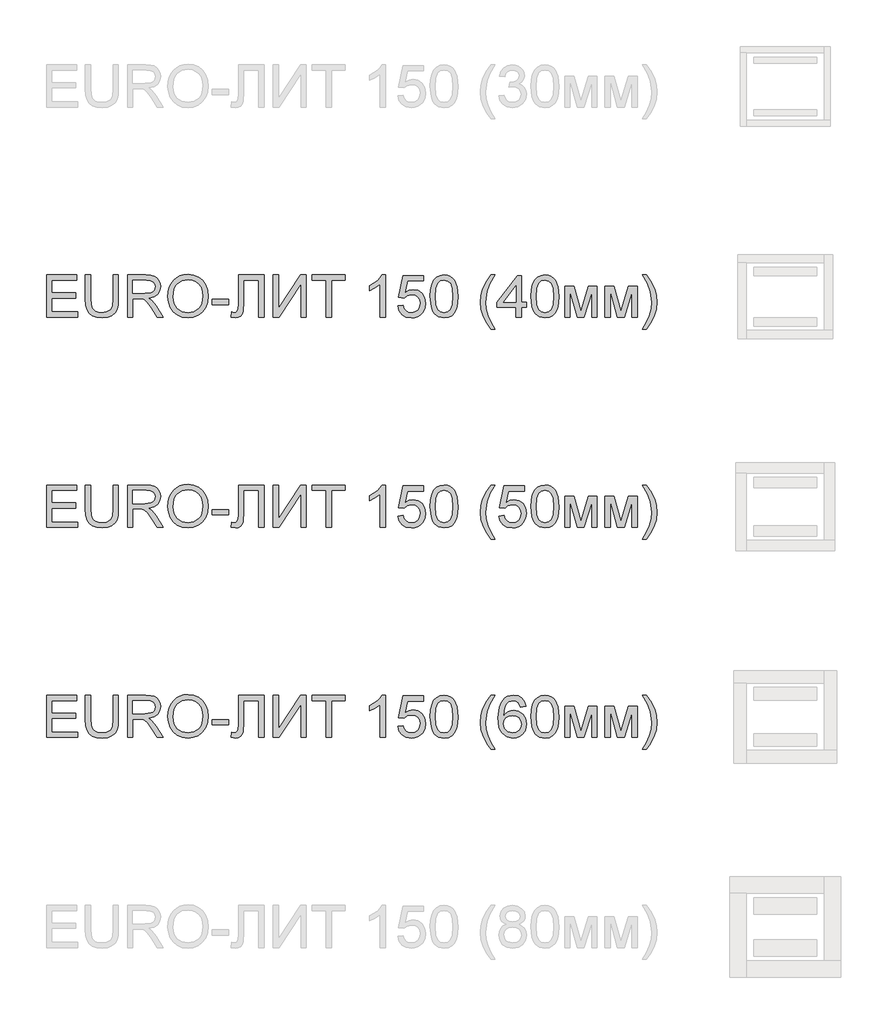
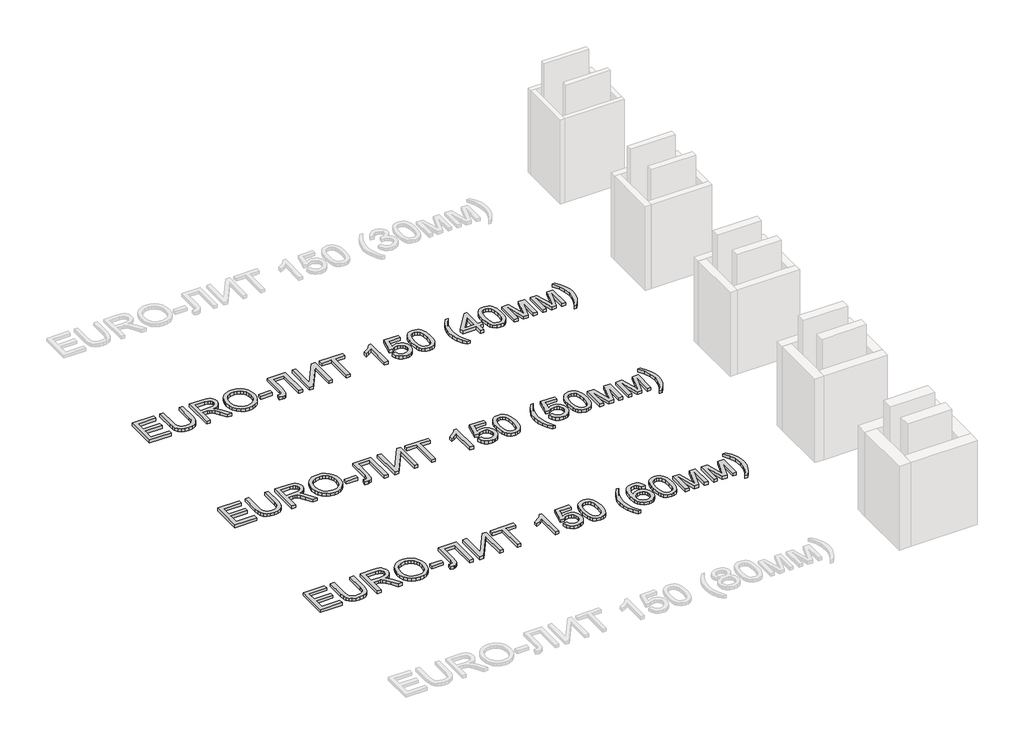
# One storey, part 16 of 35: 3 proxies.
"""IFC4 building model written with IfcOpenShell, lengths in millimetres."""

from ifc_helpers import new_model, si_unit, origin, origin_with_axes, place, context, project, spatial, polyline, outline, extrude, element, save

model = new_model("IFC4")

# Units and contexts
model_context = context("Model", 3, world=origin())
ifc_project = project(units=[si_unit("LENGTHUNIT", "METRE", prefix="MILLI")], contexts=[model_context])

# Site, building, storey
site = spatial("IfcSite", under=ifc_project)
building = spatial("IfcBuilding", under=site)
storey = spatial("IfcBuildingStorey", under=building, Name="Этаж 01", Elevation=0.0)

# Proxies
placement = place(None, origin())
element("IfcBuildingElementProxy", 1, Name="400 мм Arial", ObjectType="400 мм Arial", at=placement, inside=storey, context=model_context, shape_type="SweptSolid", body=[
    extrude(outline(polyline([(23432.9130067, -50230.4960856), (23432.9130067, -50029.5834653), (23577.3189525, -50029.5834653), (23577.3189525, -50054.6975429), (23458.0270842, -50054.6975429), (23458.0270842, -50114.343477), (23571.0404331, -50114.343477), (23571.0404331, -50139.4575546), (23458.0270842, -50139.4575546), (23458.0270842, -50205.3820081), (23580.4582122, -50205.3820081), (23580.4582122, -50230.4960856), (23432.9130067, -50230.4960856)])), origin_with_axes(), (0.0, 0.0, 1.0), 20.0),
    extrude(outline(polyline([(23749.9782356, -50029.5834653), (23775.0923131, -50029.5834653), (23775.0923131, -50145.4908193), (23773.3877932, -50172.6343792), (23768.2742335, -50193.5362079), (23758.7215643, -50209.661702), (23743.6997162, -50222.4762582), (23723.1719008, -50230.8455735), (23697.1013301, -50233.6353453), (23671.6009765, -50231.2073242), (23651.2141826, -50223.9232607), (23635.9348171, -50212.0345409), (23625.7567485, -50195.7925508), (23620.0361835, -50174.0078053), (23618.1293285, -50145.4908193), (23618.1293285, -50029.5834653), (23643.243406, -50029.5834653), (23643.243406, -50144.6079025), (23644.4819421, -50167.1774629), (23648.1975502, -50182.8921555), (23654.9297907, -50193.7753312), (23665.2182239, -50201.850341), (23678.633654, -50206.8535361), (23694.7468854, -50208.5212678), (23720.2901585, -50205.2225926), (23737.274044, -50195.3265669), (23746.8021877, -50176.0495504), (23749.9782356, -50144.6079025), (23749.9782356, -50029.5834653)])), origin_with_axes(), (0.0, 0.0, 1.0), 20.0),
    extrude(outline(polyline([(23819.0419488, -50230.4960856), (23819.0419488, -50029.5834653), (23905.616845, -50029.5834653), (23928.8853812, -50030.9384974), (23945.8140843, -50035.0035934), (23958.1871821, -50042.5083861), (23967.7889022, -50054.1825081), (23973.9509256, -50068.6586646), (23976.0049334, -50084.5695609), (23972.6020249, -50104.3616122), (23962.3932996, -50120.7691492), (23945.072189, -50132.7988905), (23920.3321248, -50139.4575546), (23934.6059462, -50150.1997088), (23954.9620833, -50176.0495504), (23988.4638703, -50230.4960856), (23959.2785653, -50230.4960856), (23933.1344182, -50188.8518438), (23914.2498091, -50161.2852196), (23900.9815318, -50148.262197), (23889.0376297, -50143.4797311), (23874.4695027, -50142.5968143), (23844.1560263, -50142.5968143), (23844.1560263, -50230.4960856), (23819.0419488, -50230.4960856)]), holes=[polyline([(23844.1560263, -50117.4827367), (23900.3683952, -50117.4827367), (23929.0386653, -50113.9265441), (23938.4687072, -50109.3034937), (23945.323575, -50102.5467277), (23950.8908559, -50085.5015286), (23948.2359741, -50073.2510582), (23940.2713289, -50063.379558), (23926.5677246, -50056.8680467), (23906.6959655, -50054.6975429), (23844.1560263, -50054.6975429), (23844.1560263, -50117.4827367)])]), origin_with_axes(), (0.0, 0.0, 1.0), 20.0),
    extrude(outline(polyline([(24010.53679, -50132.6885259), (24012.2106531, -50109.1226184), (24017.2322423, -50088.2606436), (24025.6015577, -50070.1026014), (24037.3185993, -50054.648492), (24051.6813255, -50042.3091167), (24067.9876949, -50033.4952772), (24086.2377076, -50028.2069736), (24106.4313634, -50026.4442057), (24132.783977, -50029.7551436), (24156.4142638, -50039.6879575), (24176.0346369, -50055.5436715), (24190.3575093, -50076.6233098), (24199.1131007, -50101.9090656), (24202.0316312, -50130.383132), (24198.9598166, -50159.2373432), (24189.7443726, -50184.8787182), (24174.8942027, -50205.9951448), (24154.9182104, -50221.2745103), (24131.4902587, -50230.5451366), (24106.2842106, -50233.6353453), (24079.5269268, -50230.2201742), (24055.76175, -50219.9746606), (24036.1904278, -50203.824641), (24022.0147083, -50182.6959517), (24013.4062696, -50158.3850832), (24010.53679, -50132.6885259)]), holes=[polyline([(24035.6508675, -50132.9337805), (24040.6724568, -50164.3631656), (24055.7372245, -50188.3122835), (24078.3803613, -50203.4690217), (24106.1370578, -50208.5212678), (24134.2984246, -50203.4199708), (24156.9783496, -50188.1160798), (24165.7017514, -50176.8435623), (24171.9327527, -50163.4311979), (24176.9175537, -50130.1869283), (24174.7838381, -50107.9545931), (24168.3826914, -50088.7388902), (24157.8796604, -50073.0241976), (24143.4402921, -50061.2948933), (24126.0210797, -50053.9924357), (24106.5785162, -50051.5582832), (24079.563715, -50056.2487786), (24056.5956158, -50070.3202649), (24047.4322884, -50081.2693528), (24040.8870546, -50095.3546347), (24035.6508675, -50132.9337805)])]), origin_with_axes(), (0.0, 0.0, 1.0), 20.0),
    extrude(outline(polyline([(24220.8671894, -50170.8501515), (24220.8671894, -50145.736074), (24299.3486817, -50145.736074), (24299.3486817, -50170.8501515), (24220.8671894, -50170.8501515)])), origin_with_axes(), (0.0, 0.0, 1.0), 20.0),
    extrude(outline(polyline([(24346.4375771, -50029.5834653), (24468.8687051, -50029.5834653), (24468.8687051, -50230.4960856), (24443.7546275, -50230.4960856), (24443.7546275, -50054.6975429), (24371.5516546, -50054.6975429), (24371.5516546, -50157.2139922), (24368.6331241, -50202.9539869), (24364.1143069, -50215.8789077), (24356.3949164, -50225.5664669), (24345.8244404, -50231.6181257), (24332.7523669, -50233.6353453), (24311.9057205, -50230.4960856), (24315.0449802, -50205.3820081), (24327.0624587, -50208.5212678), (24335.5544014, -50206.835142), (24341.6060602, -50201.7767646), (24345.2296979, -50190.4643932), (24346.4375771, -50170.0162856), (24346.4375771, -50029.5834653)])), origin_with_axes(), (0.0, 0.0, 1.0), 20.0),
    extrude(outline(polyline([(24512.8183408, -50029.5834653), (24537.9324183, -50029.5834653), (24537.9324183, -50188.704691), (24643.097618, -50029.5834653), (24669.7813254, -50029.5834653), (24669.7813254, -50230.4960856), (24644.6672478, -50230.4960856), (24644.6672478, -50071.8163184), (24539.7473028, -50230.4960856), (24512.8183408, -50230.4960856), (24512.8183408, -50029.5834653)])), origin_with_axes(), (0.0, 0.0, 1.0), 20.0),
    extrude(outline(polyline([(24763.9591161, -50230.4960856), (24763.9591161, -50054.6975429), (24698.0346626, -50054.6975429), (24698.0346626, -50029.5834653), (24854.9976472, -50029.5834653), (24854.9976472, -50054.6975429), (24789.0731937, -50054.6975429), (24789.0731937, -50230.4960856), (24763.9591161, -50230.4960856)])), origin_with_axes(), (0.0, 0.0, 1.0), 20.0),
    extrude(outline(polyline([(25046.4924884, -50230.4960856), (25021.3784109, -50230.4960856), (25021.3784109, -50073.9255085), (24997.5887085, -50090.8726057), (24971.1502558, -50103.5522718), (24971.1502558, -50079.8116204), (25007.9629808, -50056.3162237), (25021.4335932, -50042.741378), (25030.3056806, -50029.5834653), (25046.4924884, -50029.5834653), (25046.4924884, -50230.4960856)])), origin_with_axes(), (0.0, 0.0, 1.0), 20.0),
    extrude(outline(polyline([(25106.1384226, -50177.1286709), (25131.2525001, -50173.9894112), (25135.8632878, -50189.0664416), (25143.9076408, -50199.8637782), (25155.3487708, -50206.3568954), (25170.1498897, -50208.5212678), (25188.151582, -50205.5107668), (25201.6405885, -50196.4792638), (25210.0650862, -50182.4690912), (25212.8732521, -50164.5225812), (25210.2428958, -50147.6245349), (25202.3518271, -50134.6996141), (25189.1387321, -50126.4958456), (25170.5422972, -50123.7612561), (25148.493903, -50128.1267891), (25134.3917598, -50139.4575546), (25109.2776823, -50136.3182949), (25131.2525001, -50032.722725), (25228.5695506, -50032.722725), (25228.5695506, -50057.8368026), (25151.5595863, -50057.8368026), (25140.817432, -50113.1662547), (25158.7578106, -50102.2769476), (25177.5565806, -50098.6471786), (25201.0213205, -50103.1476017), (25220.5006721, -50116.6488709), (25233.6156653, -50137.2257371), (25237.9873297, -50162.9529513), (25234.0509923, -50188.0670289), (25222.2419803, -50209.5513374), (25211.8063943, -50220.0880909), (25199.6295003, -50227.6143434), (25185.7112981, -50232.1300948), (25170.0517879, -50233.6353453), (25145.3853001, -50229.766453), (25125.7342702, -50218.1597761), (25112.2636578, -50200.1642151), (25106.1384226, -50177.1286709)])), origin_with_axes(), (0.0, 0.0, 1.0), 20.0),
    extrude(outline(polyline([(25259.9621475, -50131.6584563), (25261.8076888, -50099.4994385), (25267.3443129, -50073.8519321), (25276.5168373, -50054.3235295), (25289.2700798, -50040.5218233), (25305.6960109, -50032.3180548), (25325.886601, -50029.5834653), (25341.3621703, -50031.2021461), (25355.2190588, -50036.0581885), (25366.8073416, -50043.96152), (25375.477094, -50054.7220684), (25387.2493178, -50084.4469336), (25391.8110546, -50131.6584563), (25389.9839073, -50163.633533), (25384.5024656, -50189.2197258), (25375.3851235, -50208.7665225), (25362.6502751, -50222.623411), (25346.1875558, -50230.8823617), (25325.886601, -50233.6353453), (25299.7915048, -50228.8528794), (25279.974928, -50214.5054816), (25271.2193365, -50199.3763345), (25264.9653426, -50180.525448), (25259.9621475, -50131.6584563)]), holes=[polyline([(25285.076225, -50131.6094053), (25288.019281, -50171.1138003), (25296.8484489, -50193.9776663), (25309.9940988, -50204.8853674), (25325.886601, -50208.5212678), (25341.7791032, -50204.8731047), (25354.9247532, -50193.9286153), (25363.7539211, -50171.0524866), (25366.696977, -50131.6094053), (25363.8520229, -50092.9940586), (25355.3171606, -50069.952383), (25342.1960362, -50058.5112529), (25325.5922954, -50054.6975429), (25309.8714715, -50058.0575318), (25297.2408563, -50068.1374984), (25288.1173829, -50092.6139139), (25285.076225, -50131.6094053)])]), origin_with_axes(), (0.0, 0.0, 1.0), 20.0),
    extrude(outline(polyline([(25548.7740392, -50287.0027601), (25529.3130816, -50259.6936533), (25513.1140111, -50228.0925899), (25502.1879159, -50193.7324116), (25498.5458841, -50158.1459599), (25501.2682109, -50126.937304), (25509.4351912, -50097.0775487), (25525.6465244, -50063.2569306), (25548.7740392, -50029.5834653), (25567.6095973, -50029.5834653), (25544.1142006, -50069.3637718), (25529.987532, -50107.9178049), (25523.6599616, -50158.2931127), (25526.4068139, -50190.4889187), (25534.6473706, -50222.6724619), (25548.3816317, -50254.8437424), (25567.6095973, -50287.0027601), (25548.7740392, -50287.0027601)])), origin_with_axes(), (0.0, 0.0, 1.0), 20.0),
    extrude(outline(polyline([(25668.0659075, -50230.4960856), (25668.0659075, -50183.4071903), (25577.0273764, -50183.4071903), (25577.0273764, -50158.2931127), (25674.3444269, -50032.722725), (25693.179985, -50032.722725), (25693.179985, -50158.2931127), (25718.2940626, -50158.2931127), (25718.2940626, -50183.4071903), (25693.179985, -50183.4071903), (25693.179985, -50230.4960856), (25668.0659075, -50230.4960856)]), holes=[polyline([(25668.0659075, -50158.2931127), (25668.0659075, -50080.6945372), (25607.929464, -50158.2931127), (25668.0659075, -50158.2931127)])]), origin_with_axes(), (0.0, 0.0, 1.0), 20.0),
    extrude(outline(polyline([(25740.2688804, -50131.6584563), (25742.1144217, -50099.4994385), (25747.6510458, -50073.8519321), (25756.8235702, -50054.3235295), (25769.5768127, -50040.5218233), (25786.0027438, -50032.3180548), (25806.1933339, -50029.5834653), (25821.6689032, -50031.2021461), (25835.5257917, -50036.0581885), (25847.1140745, -50043.96152), (25855.7838269, -50054.7220684), (25867.5560507, -50084.4469336), (25872.1177875, -50131.6584563), (25870.2906402, -50163.633533), (25864.8091985, -50189.2197258), (25855.6918564, -50208.7665225), (25842.957008, -50222.623411), (25826.4942887, -50230.8823617), (25806.1933339, -50233.6353453), (25780.0982377, -50228.8528794), (25760.2816609, -50214.5054816), (25751.5260695, -50199.3763345), (25745.2720755, -50180.525448), (25740.2688804, -50131.6584563)]), holes=[polyline([(25765.3829579, -50131.6094053), (25768.3260139, -50171.1138003), (25777.1551818, -50193.9776663), (25790.3008317, -50204.8853674), (25806.1933339, -50208.5212678), (25822.0858361, -50204.8731047), (25835.2314861, -50193.9286153), (25844.060654, -50171.0524866), (25847.0037099, -50131.6094053), (25844.1587558, -50092.9940586), (25835.6238935, -50069.952383), (25822.5027691, -50058.5112529), (25805.8990283, -50054.6975429), (25790.1782044, -50058.0575318), (25777.5475892, -50068.1374984), (25768.4241158, -50092.6139139), (25765.3829579, -50131.6094053)])]), origin_with_axes(), (0.0, 0.0, 1.0), 20.0),
    extrude(outline(polyline([(25900.3711247, -50082.9508801), (25943.5849964, -50082.9508801), (25976.8905797, -50201.065526), (26012.7958624, -50082.9508801), (26054.1948496, -50082.9508801), (26054.1948496, -50230.4960856), (26029.0807721, -50230.4960856), (26029.0807721, -50111.6947267), (25992.9792856, -50230.4960856), (25960.0170589, -50230.4960856), (25925.4852022, -50106.0048185), (25925.4852022, -50230.4960856), (25900.3711247, -50230.4960856), (25900.3711247, -50082.9508801)])), origin_with_axes(), (0.0, 0.0, 1.0), 20.0),
    extrude(outline(polyline([(26091.8659659, -50082.9508801), (26135.0798376, -50082.9508801), (26168.3854209, -50201.065526), (26204.2907036, -50082.9508801), (26245.6896908, -50082.9508801), (26245.6896908, -50230.4960856), (26220.5756133, -50230.4960856), (26220.5756133, -50111.6947267), (26184.4741268, -50230.4960856), (26151.5119001, -50230.4960856), (26116.9800435, -50106.0048185), (26116.9800435, -50230.4960856), (26091.8659659, -50230.4960856), (26091.8659659, -50082.9508801)])), origin_with_axes(), (0.0, 0.0, 1.0), 20.0),
    extrude(outline(polyline([(26289.6393265, -50287.0027601), (26270.8037684, -50287.0027601), (26290.031734, -50254.8437424), (26303.7659951, -50222.6724619), (26312.0065518, -50190.4889187), (26314.7534041, -50158.2931127), (26308.4258338, -50108.3592633), (26294.4463179, -50069.7561792), (26270.8037684, -50029.5834653), (26289.6393265, -50029.5834653), (26312.7668413, -50063.2569306), (26328.9781745, -50097.0775487), (26337.1451548, -50126.937304), (26339.8674816, -50158.1459599), (26336.2070558, -50193.7324116), (26325.2257782, -50228.0925899), (26309.0083136, -50259.6936533), (26289.6393265, -50287.0027601)])), origin_with_axes(), (0.0, 0.0, 1.0), 20.0),
])
element("IfcBuildingElementProxy", 2, Name="400 мм Arial", ObjectType="400 мм Arial", at=placement, inside=storey, context=model_context, shape_type="SweptSolid", body=[
    extrude(outline(polyline([(23432.9130067, -51230.4960856), (23432.9130067, -51029.5834653), (23577.3189525, -51029.5834653), (23577.3189525, -51054.6975429), (23458.0270842, -51054.6975429), (23458.0270842, -51114.343477), (23571.0404331, -51114.343477), (23571.0404331, -51139.4575546), (23458.0270842, -51139.4575546), (23458.0270842, -51205.3820081), (23580.4582122, -51205.3820081), (23580.4582122, -51230.4960856), (23432.9130067, -51230.4960856)])), origin_with_axes(), (0.0, 0.0, 1.0), 20.0),
    extrude(outline(polyline([(23749.9782356, -51029.5834653), (23775.0923131, -51029.5834653), (23775.0923131, -51145.4908193), (23773.3877932, -51172.6343792), (23768.2742335, -51193.5362079), (23758.7215643, -51209.661702), (23743.6997162, -51222.4762582), (23723.1719008, -51230.8455735), (23697.1013301, -51233.6353453), (23671.6009765, -51231.2073242), (23651.2141826, -51223.9232607), (23635.9348171, -51212.0345409), (23625.7567485, -51195.7925508), (23620.0361835, -51174.0078053), (23618.1293285, -51145.4908193), (23618.1293285, -51029.5834653), (23643.243406, -51029.5834653), (23643.243406, -51144.6079025), (23644.4819421, -51167.1774629), (23648.1975502, -51182.8921555), (23654.9297907, -51193.7753312), (23665.2182239, -51201.850341), (23678.633654, -51206.8535361), (23694.7468854, -51208.5212678), (23720.2901585, -51205.2225926), (23737.274044, -51195.3265669), (23746.8021877, -51176.0495504), (23749.9782356, -51144.6079025), (23749.9782356, -51029.5834653)])), origin_with_axes(), (0.0, 0.0, 1.0), 20.0),
    extrude(outline(polyline([(23819.0419488, -51230.4960856), (23819.0419488, -51029.5834653), (23905.616845, -51029.5834653), (23928.8853812, -51030.9384974), (23945.8140843, -51035.0035934), (23958.1871821, -51042.5083861), (23967.7889022, -51054.1825081), (23973.9509256, -51068.6586646), (23976.0049334, -51084.5695609), (23972.6020249, -51104.3616122), (23962.3932996, -51120.7691492), (23945.072189, -51132.7988905), (23920.3321248, -51139.4575546), (23934.6059462, -51150.1997088), (23954.9620833, -51176.0495504), (23988.4638703, -51230.4960856), (23959.2785653, -51230.4960856), (23933.1344182, -51188.8518438), (23914.2498091, -51161.2852196), (23900.9815318, -51148.262197), (23889.0376297, -51143.4797311), (23874.4695027, -51142.5968143), (23844.1560263, -51142.5968143), (23844.1560263, -51230.4960856), (23819.0419488, -51230.4960856)]), holes=[polyline([(23844.1560263, -51117.4827367), (23900.3683952, -51117.4827367), (23929.0386653, -51113.9265441), (23938.4687072, -51109.3034937), (23945.323575, -51102.5467277), (23950.8908559, -51085.5015286), (23948.2359741, -51073.2510582), (23940.2713289, -51063.379558), (23926.5677246, -51056.8680467), (23906.6959655, -51054.6975429), (23844.1560263, -51054.6975429), (23844.1560263, -51117.4827367)])]), origin_with_axes(), (0.0, 0.0, 1.0), 20.0),
    extrude(outline(polyline([(24010.53679, -51132.6885259), (24012.2106531, -51109.1226184), (24017.2322423, -51088.2606436), (24025.6015577, -51070.1026014), (24037.3185993, -51054.648492), (24051.6813255, -51042.3091167), (24067.9876949, -51033.4952772), (24086.2377076, -51028.2069736), (24106.4313634, -51026.4442057), (24132.783977, -51029.7551436), (24156.4142638, -51039.6879575), (24176.0346369, -51055.5436715), (24190.3575093, -51076.6233098), (24199.1131007, -51101.9090656), (24202.0316312, -51130.383132), (24198.9598166, -51159.2373432), (24189.7443726, -51184.8787182), (24174.8942027, -51205.9951448), (24154.9182104, -51221.2745103), (24131.4902587, -51230.5451366), (24106.2842106, -51233.6353453), (24079.5269268, -51230.2201742), (24055.76175, -51219.9746606), (24036.1904278, -51203.824641), (24022.0147083, -51182.6959517), (24013.4062696, -51158.3850832), (24010.53679, -51132.6885259)]), holes=[polyline([(24035.6508675, -51132.9337805), (24040.6724568, -51164.3631656), (24055.7372245, -51188.3122835), (24078.3803613, -51203.4690217), (24106.1370578, -51208.5212678), (24134.2984246, -51203.4199708), (24156.9783496, -51188.1160798), (24165.7017514, -51176.8435623), (24171.9327527, -51163.4311979), (24176.9175537, -51130.1869283), (24174.7838381, -51107.9545931), (24168.3826914, -51088.7388902), (24157.8796604, -51073.0241976), (24143.4402921, -51061.2948933), (24126.0210797, -51053.9924357), (24106.5785162, -51051.5582832), (24079.563715, -51056.2487786), (24056.5956158, -51070.3202649), (24047.4322884, -51081.2693528), (24040.8870546, -51095.3546347), (24035.6508675, -51132.9337805)])]), origin_with_axes(), (0.0, 0.0, 1.0), 20.0),
    extrude(outline(polyline([(24220.8671894, -51170.8501515), (24220.8671894, -51145.736074), (24299.3486817, -51145.736074), (24299.3486817, -51170.8501515), (24220.8671894, -51170.8501515)])), origin_with_axes(), (0.0, 0.0, 1.0), 20.0),
    extrude(outline(polyline([(24346.4375771, -51029.5834653), (24468.8687051, -51029.5834653), (24468.8687051, -51230.4960856), (24443.7546275, -51230.4960856), (24443.7546275, -51054.6975429), (24371.5516546, -51054.6975429), (24371.5516546, -51157.2139922), (24368.6331241, -51202.9539869), (24364.1143069, -51215.8789077), (24356.3949164, -51225.5664669), (24345.8244404, -51231.6181257), (24332.7523669, -51233.6353453), (24311.9057205, -51230.4960856), (24315.0449802, -51205.3820081), (24327.0624587, -51208.5212678), (24335.5544014, -51206.835142), (24341.6060602, -51201.7767646), (24345.2296979, -51190.4643932), (24346.4375771, -51170.0162856), (24346.4375771, -51029.5834653)])), origin_with_axes(), (0.0, 0.0, 1.0), 20.0),
    extrude(outline(polyline([(24512.8183408, -51029.5834653), (24537.9324183, -51029.5834653), (24537.9324183, -51188.704691), (24643.097618, -51029.5834653), (24669.7813254, -51029.5834653), (24669.7813254, -51230.4960856), (24644.6672478, -51230.4960856), (24644.6672478, -51071.8163184), (24539.7473028, -51230.4960856), (24512.8183408, -51230.4960856), (24512.8183408, -51029.5834653)])), origin_with_axes(), (0.0, 0.0, 1.0), 20.0),
    extrude(outline(polyline([(24763.9591161, -51230.4960856), (24763.9591161, -51054.6975429), (24698.0346626, -51054.6975429), (24698.0346626, -51029.5834653), (24854.9976472, -51029.5834653), (24854.9976472, -51054.6975429), (24789.0731937, -51054.6975429), (24789.0731937, -51230.4960856), (24763.9591161, -51230.4960856)])), origin_with_axes(), (0.0, 0.0, 1.0), 20.0),
    extrude(outline(polyline([(25046.4924884, -51230.4960856), (25021.3784109, -51230.4960856), (25021.3784109, -51073.9255085), (24997.5887085, -51090.8726057), (24971.1502558, -51103.5522718), (24971.1502558, -51079.8116204), (25007.9629808, -51056.3162237), (25021.4335932, -51042.741378), (25030.3056806, -51029.5834653), (25046.4924884, -51029.5834653), (25046.4924884, -51230.4960856)])), origin_with_axes(), (0.0, 0.0, 1.0), 20.0),
    extrude(outline(polyline([(25106.1384226, -51177.1286709), (25131.2525001, -51173.9894112), (25135.8632878, -51189.0664416), (25143.9076408, -51199.8637782), (25155.3487708, -51206.3568954), (25170.1498897, -51208.5212678), (25188.151582, -51205.5107668), (25201.6405885, -51196.4792638), (25210.0650862, -51182.4690912), (25212.8732521, -51164.5225812), (25210.2428958, -51147.6245349), (25202.3518271, -51134.6996141), (25189.1387321, -51126.4958456), (25170.5422972, -51123.7612561), (25148.493903, -51128.1267891), (25134.3917598, -51139.4575546), (25109.2776823, -51136.3182949), (25131.2525001, -51032.722725), (25228.5695506, -51032.722725), (25228.5695506, -51057.8368026), (25151.5595863, -51057.8368026), (25140.817432, -51113.1662547), (25158.7578106, -51102.2769476), (25177.5565806, -51098.6471786), (25201.0213205, -51103.1476017), (25220.5006721, -51116.6488709), (25233.6156653, -51137.2257371), (25237.9873297, -51162.9529513), (25234.0509923, -51188.0670289), (25222.2419803, -51209.5513374), (25211.8063943, -51220.0880909), (25199.6295003, -51227.6143434), (25185.7112981, -51232.1300948), (25170.0517879, -51233.6353453), (25145.3853001, -51229.766453), (25125.7342702, -51218.1597761), (25112.2636578, -51200.1642151), (25106.1384226, -51177.1286709)])), origin_with_axes(), (0.0, 0.0, 1.0), 20.0),
    extrude(outline(polyline([(25259.9621475, -51131.6584563), (25261.8076888, -51099.4994385), (25267.3443129, -51073.8519321), (25276.5168373, -51054.3235295), (25289.2700798, -51040.5218233), (25305.6960109, -51032.3180548), (25325.886601, -51029.5834653), (25341.3621703, -51031.2021461), (25355.2190588, -51036.0581885), (25366.8073416, -51043.96152), (25375.477094, -51054.7220684), (25387.2493178, -51084.4469336), (25391.8110546, -51131.6584563), (25389.9839073, -51163.633533), (25384.5024656, -51189.2197258), (25375.3851235, -51208.7665225), (25362.6502751, -51222.623411), (25346.1875558, -51230.8823617), (25325.886601, -51233.6353453), (25299.7915048, -51228.8528794), (25279.974928, -51214.5054816), (25271.2193365, -51199.3763345), (25264.9653426, -51180.525448), (25259.9621475, -51131.6584563)]), holes=[polyline([(25285.076225, -51131.6094053), (25288.019281, -51171.1138003), (25296.8484489, -51193.9776663), (25309.9940988, -51204.8853674), (25325.886601, -51208.5212678), (25341.7791032, -51204.8731047), (25354.9247532, -51193.9286153), (25363.7539211, -51171.0524866), (25366.696977, -51131.6094053), (25363.8520229, -51092.9940586), (25355.3171606, -51069.952383), (25342.1960362, -51058.5112529), (25325.5922954, -51054.6975429), (25309.8714715, -51058.0575318), (25297.2408563, -51068.1374984), (25288.1173829, -51092.6139139), (25285.076225, -51131.6094053)])]), origin_with_axes(), (0.0, 0.0, 1.0), 20.0),
    extrude(outline(polyline([(25548.7740392, -51287.0027601), (25529.3130816, -51259.6936533), (25513.1140111, -51228.0925899), (25502.1879159, -51193.7324116), (25498.5458841, -51158.1459599), (25501.2682109, -51126.937304), (25509.4351912, -51097.0775487), (25525.6465244, -51063.2569306), (25548.7740392, -51029.5834653), (25567.6095973, -51029.5834653), (25544.1142006, -51069.3637718), (25529.987532, -51107.9178049), (25523.6599616, -51158.2931127), (25526.4068139, -51190.4889187), (25534.6473706, -51222.6724619), (25548.3816317, -51254.8437424), (25567.6095973, -51287.0027601), (25548.7740392, -51287.0027601)])), origin_with_axes(), (0.0, 0.0, 1.0), 20.0),
    extrude(outline(polyline([(25586.4451555, -51177.1286709), (25611.559233, -51173.9894112), (25616.1700207, -51189.0664416), (25624.2143737, -51199.8637782), (25635.6555037, -51206.3568954), (25650.4566226, -51208.5212678), (25668.4583149, -51205.5107668), (25681.9473214, -51196.4792638), (25690.3718191, -51182.4690912), (25693.179985, -51164.5225812), (25690.5496288, -51147.6245349), (25682.65856, -51134.6996141), (25669.445465, -51126.4958456), (25650.8490301, -51123.7612561), (25628.8006359, -51128.1267891), (25614.6984927, -51139.4575546), (25589.5844152, -51136.3182949), (25611.559233, -51032.722725), (25708.8762835, -51032.722725), (25708.8762835, -51057.8368026), (25631.8663192, -51057.8368026), (25621.1241649, -51113.1662547), (25639.0645435, -51102.2769476), (25657.8633135, -51098.6471786), (25681.3280534, -51103.1476017), (25700.807405, -51116.6488709), (25713.9223982, -51137.2257371), (25718.2940626, -51162.9529513), (25714.3577252, -51188.0670289), (25702.5487132, -51209.5513374), (25692.1131272, -51220.0880909), (25679.9362332, -51227.6143434), (25666.018031, -51232.1300948), (25650.3585208, -51233.6353453), (25625.692033, -51229.766453), (25606.0410031, -51218.1597761), (25592.5703907, -51200.1642151), (25586.4451555, -51177.1286709)])), origin_with_axes(), (0.0, 0.0, 1.0), 20.0),
    extrude(outline(polyline([(25740.2688804, -51131.6584563), (25742.1144217, -51099.4994385), (25747.6510458, -51073.8519321), (25756.8235702, -51054.3235295), (25769.5768127, -51040.5218233), (25786.0027438, -51032.3180548), (25806.1933339, -51029.5834653), (25821.6689032, -51031.2021461), (25835.5257917, -51036.0581885), (25847.1140745, -51043.96152), (25855.7838269, -51054.7220684), (25867.5560507, -51084.4469336), (25872.1177875, -51131.6584563), (25870.2906402, -51163.633533), (25864.8091985, -51189.2197258), (25855.6918564, -51208.7665225), (25842.957008, -51222.623411), (25826.4942887, -51230.8823617), (25806.1933339, -51233.6353453), (25780.0982377, -51228.8528794), (25760.2816609, -51214.5054816), (25751.5260695, -51199.3763345), (25745.2720755, -51180.525448), (25740.2688804, -51131.6584563)]), holes=[polyline([(25765.3829579, -51131.6094053), (25768.3260139, -51171.1138003), (25777.1551818, -51193.9776663), (25790.3008317, -51204.8853674), (25806.1933339, -51208.5212678), (25822.0858361, -51204.8731047), (25835.2314861, -51193.9286153), (25844.060654, -51171.0524866), (25847.0037099, -51131.6094053), (25844.1587558, -51092.9940586), (25835.6238935, -51069.952383), (25822.5027691, -51058.5112529), (25805.8990283, -51054.6975429), (25790.1782044, -51058.0575318), (25777.5475892, -51068.1374984), (25768.4241158, -51092.6139139), (25765.3829579, -51131.6094053)])]), origin_with_axes(), (0.0, 0.0, 1.0), 20.0),
    extrude(outline(polyline([(25900.3711247, -51082.9508801), (25943.5849964, -51082.9508801), (25976.8905797, -51201.065526), (26012.7958624, -51082.9508801), (26054.1948496, -51082.9508801), (26054.1948496, -51230.4960856), (26029.0807721, -51230.4960856), (26029.0807721, -51111.6947267), (25992.9792856, -51230.4960856), (25960.0170589, -51230.4960856), (25925.4852022, -51106.0048185), (25925.4852022, -51230.4960856), (25900.3711247, -51230.4960856), (25900.3711247, -51082.9508801)])), origin_with_axes(), (0.0, 0.0, 1.0), 20.0),
    extrude(outline(polyline([(26091.8659659, -51082.9508801), (26135.0798376, -51082.9508801), (26168.3854209, -51201.065526), (26204.2907036, -51082.9508801), (26245.6896908, -51082.9508801), (26245.6896908, -51230.4960856), (26220.5756133, -51230.4960856), (26220.5756133, -51111.6947267), (26184.4741268, -51230.4960856), (26151.5119001, -51230.4960856), (26116.9800435, -51106.0048185), (26116.9800435, -51230.4960856), (26091.8659659, -51230.4960856), (26091.8659659, -51082.9508801)])), origin_with_axes(), (0.0, 0.0, 1.0), 20.0),
    extrude(outline(polyline([(26289.6393265, -51287.0027601), (26270.8037684, -51287.0027601), (26290.031734, -51254.8437424), (26303.7659951, -51222.6724619), (26312.0065518, -51190.4889187), (26314.7534041, -51158.2931127), (26308.4258338, -51108.3592633), (26294.4463179, -51069.7561792), (26270.8037684, -51029.5834653), (26289.6393265, -51029.5834653), (26312.7668413, -51063.2569306), (26328.9781745, -51097.0775487), (26337.1451548, -51126.937304), (26339.8674816, -51158.1459599), (26336.2070558, -51193.7324116), (26325.2257782, -51228.0925899), (26309.0083136, -51259.6936533), (26289.6393265, -51287.0027601)])), origin_with_axes(), (0.0, 0.0, 1.0), 20.0),
])
element("IfcBuildingElementProxy", 3, Name="400 мм Arial", ObjectType="400 мм Arial", at=placement, inside=storey, context=model_context, shape_type="SweptSolid", body=[
    extrude(outline(polyline([(23432.9130067, -52230.4960856), (23432.9130067, -52029.5834653), (23577.3189525, -52029.5834653), (23577.3189525, -52054.6975429), (23458.0270842, -52054.6975429), (23458.0270842, -52114.343477), (23571.0404331, -52114.343477), (23571.0404331, -52139.4575546), (23458.0270842, -52139.4575546), (23458.0270842, -52205.3820081), (23580.4582122, -52205.3820081), (23580.4582122, -52230.4960856), (23432.9130067, -52230.4960856)])), origin_with_axes(), (0.0, 0.0, 1.0), 20.0),
    extrude(outline(polyline([(23749.9782356, -52029.5834653), (23775.0923131, -52029.5834653), (23775.0923131, -52145.4908193), (23773.3877932, -52172.6343792), (23768.2742335, -52193.5362079), (23758.7215643, -52209.661702), (23743.6997162, -52222.4762582), (23723.1719008, -52230.8455735), (23697.1013301, -52233.6353453), (23671.6009765, -52231.2073242), (23651.2141826, -52223.9232607), (23635.9348171, -52212.0345409), (23625.7567485, -52195.7925508), (23620.0361835, -52174.0078053), (23618.1293285, -52145.4908193), (23618.1293285, -52029.5834653), (23643.243406, -52029.5834653), (23643.243406, -52144.6079025), (23644.4819421, -52167.1774629), (23648.1975502, -52182.8921555), (23654.9297907, -52193.7753312), (23665.2182239, -52201.850341), (23678.633654, -52206.8535361), (23694.7468854, -52208.5212678), (23720.2901585, -52205.2225926), (23737.274044, -52195.3265669), (23746.8021877, -52176.0495504), (23749.9782356, -52144.6079025), (23749.9782356, -52029.5834653)])), origin_with_axes(), (0.0, 0.0, 1.0), 20.0),
    extrude(outline(polyline([(23819.0419488, -52230.4960856), (23819.0419488, -52029.5834653), (23905.616845, -52029.5834653), (23928.8853812, -52030.9384974), (23945.8140843, -52035.0035934), (23958.1871821, -52042.5083861), (23967.7889022, -52054.1825081), (23973.9509256, -52068.6586646), (23976.0049334, -52084.5695609), (23972.6020249, -52104.3616122), (23962.3932996, -52120.7691492), (23945.072189, -52132.7988905), (23920.3321248, -52139.4575546), (23934.6059462, -52150.1997088), (23954.9620833, -52176.0495504), (23988.4638703, -52230.4960856), (23959.2785653, -52230.4960856), (23933.1344182, -52188.8518438), (23914.2498091, -52161.2852196), (23900.9815318, -52148.262197), (23889.0376297, -52143.4797311), (23874.4695027, -52142.5968143), (23844.1560263, -52142.5968143), (23844.1560263, -52230.4960856), (23819.0419488, -52230.4960856)]), holes=[polyline([(23844.1560263, -52117.4827367), (23900.3683952, -52117.4827367), (23929.0386653, -52113.9265441), (23938.4687072, -52109.3034937), (23945.323575, -52102.5467277), (23950.8908559, -52085.5015286), (23948.2359741, -52073.2510582), (23940.2713289, -52063.379558), (23926.5677246, -52056.8680467), (23906.6959655, -52054.6975429), (23844.1560263, -52054.6975429), (23844.1560263, -52117.4827367)])]), origin_with_axes(), (0.0, 0.0, 1.0), 20.0),
    extrude(outline(polyline([(24010.53679, -52132.6885259), (24012.2106531, -52109.1226184), (24017.2322423, -52088.2606436), (24025.6015577, -52070.1026014), (24037.3185993, -52054.648492), (24051.6813255, -52042.3091167), (24067.9876949, -52033.4952772), (24086.2377076, -52028.2069736), (24106.4313634, -52026.4442057), (24132.783977, -52029.7551436), (24156.4142638, -52039.6879575), (24176.0346369, -52055.5436715), (24190.3575093, -52076.6233098), (24199.1131007, -52101.9090656), (24202.0316312, -52130.383132), (24198.9598166, -52159.2373432), (24189.7443726, -52184.8787182), (24174.8942027, -52205.9951448), (24154.9182104, -52221.2745103), (24131.4902587, -52230.5451366), (24106.2842106, -52233.6353453), (24079.5269268, -52230.2201742), (24055.76175, -52219.9746606), (24036.1904278, -52203.824641), (24022.0147083, -52182.6959517), (24013.4062696, -52158.3850832), (24010.53679, -52132.6885259)]), holes=[polyline([(24035.6508675, -52132.9337805), (24040.6724568, -52164.3631656), (24055.7372245, -52188.3122835), (24078.3803613, -52203.4690217), (24106.1370578, -52208.5212678), (24134.2984246, -52203.4199708), (24156.9783496, -52188.1160798), (24165.7017514, -52176.8435623), (24171.9327527, -52163.4311979), (24176.9175537, -52130.1869283), (24174.7838381, -52107.9545931), (24168.3826914, -52088.7388902), (24157.8796604, -52073.0241976), (24143.4402921, -52061.2948933), (24126.0210797, -52053.9924357), (24106.5785162, -52051.5582832), (24079.563715, -52056.2487786), (24056.5956158, -52070.3202649), (24047.4322884, -52081.2693528), (24040.8870546, -52095.3546347), (24035.6508675, -52132.9337805)])]), origin_with_axes(), (0.0, 0.0, 1.0), 20.0),
    extrude(outline(polyline([(24220.8671894, -52170.8501515), (24220.8671894, -52145.736074), (24299.3486817, -52145.736074), (24299.3486817, -52170.8501515), (24220.8671894, -52170.8501515)])), origin_with_axes(), (0.0, 0.0, 1.0), 20.0),
    extrude(outline(polyline([(24346.4375771, -52029.5834653), (24468.8687051, -52029.5834653), (24468.8687051, -52230.4960856), (24443.7546275, -52230.4960856), (24443.7546275, -52054.6975429), (24371.5516546, -52054.6975429), (24371.5516546, -52157.2139922), (24368.6331241, -52202.9539869), (24364.1143069, -52215.8789077), (24356.3949164, -52225.5664669), (24345.8244404, -52231.6181257), (24332.7523669, -52233.6353453), (24311.9057205, -52230.4960856), (24315.0449802, -52205.3820081), (24327.0624587, -52208.5212678), (24335.5544014, -52206.835142), (24341.6060602, -52201.7767646), (24345.2296979, -52190.4643932), (24346.4375771, -52170.0162856), (24346.4375771, -52029.5834653)])), origin_with_axes(), (0.0, 0.0, 1.0), 20.0),
    extrude(outline(polyline([(24512.8183408, -52029.5834653), (24537.9324183, -52029.5834653), (24537.9324183, -52188.704691), (24643.097618, -52029.5834653), (24669.7813254, -52029.5834653), (24669.7813254, -52230.4960856), (24644.6672478, -52230.4960856), (24644.6672478, -52071.8163184), (24539.7473028, -52230.4960856), (24512.8183408, -52230.4960856), (24512.8183408, -52029.5834653)])), origin_with_axes(), (0.0, 0.0, 1.0), 20.0),
    extrude(outline(polyline([(24763.9591161, -52230.4960856), (24763.9591161, -52054.6975429), (24698.0346626, -52054.6975429), (24698.0346626, -52029.5834653), (24854.9976472, -52029.5834653), (24854.9976472, -52054.6975429), (24789.0731937, -52054.6975429), (24789.0731937, -52230.4960856), (24763.9591161, -52230.4960856)])), origin_with_axes(), (0.0, 0.0, 1.0), 20.0),
    extrude(outline(polyline([(25046.4924884, -52230.4960856), (25021.3784109, -52230.4960856), (25021.3784109, -52073.9255085), (24997.5887085, -52090.8726057), (24971.1502558, -52103.5522718), (24971.1502558, -52079.8116204), (25007.9629808, -52056.3162237), (25021.4335932, -52042.741378), (25030.3056806, -52029.5834653), (25046.4924884, -52029.5834653), (25046.4924884, -52230.4960856)])), origin_with_axes(), (0.0, 0.0, 1.0), 20.0),
    extrude(outline(polyline([(25106.1384226, -52177.1286709), (25131.2525001, -52173.9894112), (25135.8632878, -52189.0664416), (25143.9076408, -52199.8637782), (25155.3487708, -52206.3568954), (25170.1498897, -52208.5212678), (25188.151582, -52205.5107668), (25201.6405885, -52196.4792638), (25210.0650862, -52182.4690912), (25212.8732521, -52164.5225812), (25210.2428958, -52147.6245349), (25202.3518271, -52134.6996141), (25189.1387321, -52126.4958456), (25170.5422972, -52123.7612561), (25148.493903, -52128.1267891), (25134.3917598, -52139.4575546), (25109.2776823, -52136.3182949), (25131.2525001, -52032.722725), (25228.5695506, -52032.722725), (25228.5695506, -52057.8368026), (25151.5595863, -52057.8368026), (25140.817432, -52113.1662547), (25158.7578106, -52102.2769476), (25177.5565806, -52098.6471786), (25201.0213205, -52103.1476017), (25220.5006721, -52116.6488709), (25233.6156653, -52137.2257371), (25237.9873297, -52162.9529513), (25234.0509923, -52188.0670289), (25222.2419803, -52209.5513374), (25211.8063943, -52220.0880909), (25199.6295003, -52227.6143434), (25185.7112981, -52232.1300948), (25170.0517879, -52233.6353453), (25145.3853001, -52229.766453), (25125.7342702, -52218.1597761), (25112.2636578, -52200.1642151), (25106.1384226, -52177.1286709)])), origin_with_axes(), (0.0, 0.0, 1.0), 20.0),
    extrude(outline(polyline([(25259.9621475, -52131.6584563), (25261.8076888, -52099.4994385), (25267.3443129, -52073.8519321), (25276.5168373, -52054.3235295), (25289.2700798, -52040.5218233), (25305.6960109, -52032.3180548), (25325.886601, -52029.5834653), (25341.3621703, -52031.2021461), (25355.2190588, -52036.0581885), (25366.8073416, -52043.96152), (25375.477094, -52054.7220684), (25387.2493178, -52084.4469336), (25391.8110546, -52131.6584563), (25389.9839073, -52163.633533), (25384.5024656, -52189.2197258), (25375.3851235, -52208.7665225), (25362.6502751, -52222.623411), (25346.1875558, -52230.8823617), (25325.886601, -52233.6353453), (25299.7915048, -52228.8528794), (25279.974928, -52214.5054816), (25271.2193365, -52199.3763345), (25264.9653426, -52180.525448), (25259.9621475, -52131.6584563)]), holes=[polyline([(25285.076225, -52131.6094053), (25288.019281, -52171.1138003), (25296.8484489, -52193.9776663), (25309.9940988, -52204.8853674), (25325.886601, -52208.5212678), (25341.7791032, -52204.8731047), (25354.9247532, -52193.9286153), (25363.7539211, -52171.0524866), (25366.696977, -52131.6094053), (25363.8520229, -52092.9940586), (25355.3171606, -52069.952383), (25342.1960362, -52058.5112529), (25325.5922954, -52054.6975429), (25309.8714715, -52058.0575318), (25297.2408563, -52068.1374984), (25288.1173829, -52092.6139139), (25285.076225, -52131.6094053)])]), origin_with_axes(), (0.0, 0.0, 1.0), 20.0),
    extrude(outline(polyline([(25548.7740392, -52287.0027601), (25529.3130816, -52259.6936533), (25513.1140111, -52228.0925899), (25502.1879159, -52193.7324116), (25498.5458841, -52158.1459599), (25501.2682109, -52126.937304), (25509.4351912, -52097.0775487), (25525.6465244, -52063.2569306), (25548.7740392, -52029.5834653), (25567.6095973, -52029.5834653), (25544.1142006, -52069.3637718), (25529.987532, -52107.9178049), (25523.6599616, -52158.2931127), (25526.4068139, -52190.4889187), (25534.6473706, -52222.6724619), (25548.3816317, -52254.8437424), (25567.6095973, -52287.0027601), (25548.7740392, -52287.0027601)])), origin_with_axes(), (0.0, 0.0, 1.0), 20.0),
    extrude(outline(polyline([(25715.1548029, -52082.9508801), (25690.0407253, -52086.0901398), (25680.5248444, -52065.1453916), (25669.1327653, -52057.3095051), (25655.3617159, -52054.6975429), (25632.700185, -52060.7798585), (25623.2640118, -52070.38771), (25615.556884, -52083.6130677), (25610.3513538, -52102.3198672), (25608.4199733, -52128.3720438), (25618.4938086, -52116.618214), (25630.5664694, -52108.3347378), (25643.9635054, -52103.4235131), (25658.0104663, -52101.7864383), (25681.2115574, -52106.2623359), (25700.6847777, -52119.6900287), (25713.8917413, -52140.2055813), (25718.2940626, -52165.9450582), (25716.2216606, -52183.9283564), (25710.0044549, -52200.5995422), (25700.1574802, -52214.7384735), (25687.1957712, -52225.1250085), (25671.7079392, -52231.5077611), (25654.2825954, -52233.6353453), (25625.7901349, -52227.9944881), (25603.0979471, -52211.0719163), (25594.4389247, -52197.9630545), (25588.2539086, -52181.1998983), (25583.3058958, -52136.7107023), (25588.7996003, -52086.6910137), (25595.6667308, -52067.6132666), (25605.2807136, -52052.4902509), (25615.7009711, -52042.4685322), (25627.782829, -52035.3101617), (25656.9313458, -52029.5834653), (25678.9674773, -52033.1273952), (25696.6135503, -52043.7591849), (25708.9743853, -52060.6449685), (25715.1548029, -52082.9508801)]), holes=[polyline([(25608.4199733, -52165.5526508), (25614.2325089, -52187.3067394), (25629.6835526, -52203.1011397), (25652.3205581, -52208.5212678), (25668.893642, -52205.7131019), (25681.922796, -52197.2886042), (25690.3656878, -52184.0448524), (25693.179985, -52166.7789241), (25690.402476, -52150.2058402), (25682.0699488, -52137.5690937), (25668.8200656, -52129.5676603), (25651.2904885, -52126.9005158), (25634.7419301, -52129.5676603), (25620.9034357, -52137.5690937), (25611.5408389, -52149.8992719), (25608.4199733, -52165.5526508)])]), origin_with_axes(), (0.0, 0.0, 1.0), 20.0),
    extrude(outline(polyline([(25740.2688804, -52131.6584563), (25742.1144217, -52099.4994385), (25747.6510458, -52073.8519321), (25756.8235702, -52054.3235295), (25769.5768127, -52040.5218233), (25786.0027438, -52032.3180548), (25806.1933339, -52029.5834653), (25821.6689032, -52031.2021461), (25835.5257917, -52036.0581885), (25847.1140745, -52043.96152), (25855.7838269, -52054.7220684), (25867.5560507, -52084.4469336), (25872.1177875, -52131.6584563), (25870.2906402, -52163.633533), (25864.8091985, -52189.2197258), (25855.6918564, -52208.7665225), (25842.957008, -52222.623411), (25826.4942887, -52230.8823617), (25806.1933339, -52233.6353453), (25780.0982377, -52228.8528794), (25760.2816609, -52214.5054816), (25751.5260695, -52199.3763345), (25745.2720755, -52180.525448), (25740.2688804, -52131.6584563)]), holes=[polyline([(25765.3829579, -52131.6094053), (25768.3260139, -52171.1138003), (25777.1551818, -52193.9776663), (25790.3008317, -52204.8853674), (25806.1933339, -52208.5212678), (25822.0858361, -52204.8731047), (25835.2314861, -52193.9286153), (25844.060654, -52171.0524866), (25847.0037099, -52131.6094053), (25844.1587558, -52092.9940586), (25835.6238935, -52069.952383), (25822.5027691, -52058.5112529), (25805.8990283, -52054.6975429), (25790.1782044, -52058.0575318), (25777.5475892, -52068.1374984), (25768.4241158, -52092.6139139), (25765.3829579, -52131.6094053)])]), origin_with_axes(), (0.0, 0.0, 1.0), 20.0),
    extrude(outline(polyline([(25900.3711247, -52082.9508801), (25943.5849964, -52082.9508801), (25976.8905797, -52201.065526), (26012.7958624, -52082.9508801), (26054.1948496, -52082.9508801), (26054.1948496, -52230.4960856), (26029.0807721, -52230.4960856), (26029.0807721, -52111.6947267), (25992.9792856, -52230.4960856), (25960.0170589, -52230.4960856), (25925.4852022, -52106.0048185), (25925.4852022, -52230.4960856), (25900.3711247, -52230.4960856), (25900.3711247, -52082.9508801)])), origin_with_axes(), (0.0, 0.0, 1.0), 20.0),
    extrude(outline(polyline([(26091.8659659, -52082.9508801), (26135.0798376, -52082.9508801), (26168.3854209, -52201.065526), (26204.2907036, -52082.9508801), (26245.6896908, -52082.9508801), (26245.6896908, -52230.4960856), (26220.5756133, -52230.4960856), (26220.5756133, -52111.6947267), (26184.4741268, -52230.4960856), (26151.5119001, -52230.4960856), (26116.9800435, -52106.0048185), (26116.9800435, -52230.4960856), (26091.8659659, -52230.4960856), (26091.8659659, -52082.9508801)])), origin_with_axes(), (0.0, 0.0, 1.0), 20.0),
    extrude(outline(polyline([(26289.6393265, -52287.0027601), (26270.8037684, -52287.0027601), (26290.031734, -52254.8437424), (26303.7659951, -52222.6724619), (26312.0065518, -52190.4889187), (26314.7534041, -52158.2931127), (26308.4258338, -52108.3592633), (26294.4463179, -52069.7561792), (26270.8037684, -52029.5834653), (26289.6393265, -52029.5834653), (26312.7668413, -52063.2569306), (26328.9781745, -52097.0775487), (26337.1451548, -52126.937304), (26339.8674816, -52158.1459599), (26336.2070558, -52193.7324116), (26325.2257782, -52228.0925899), (26309.0083136, -52259.6936533), (26289.6393265, -52287.0027601)])), origin_with_axes(), (0.0, 0.0, 1.0), 20.0),
])

save(model, "model.ifc")
